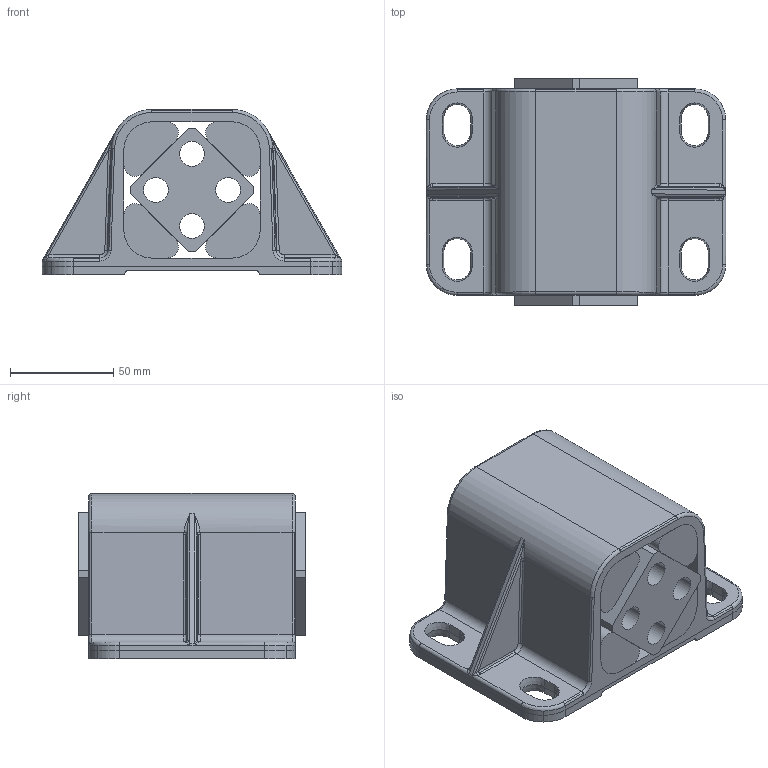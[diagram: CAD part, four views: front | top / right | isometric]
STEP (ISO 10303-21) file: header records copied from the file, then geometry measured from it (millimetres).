
FILE_DESCRIPTION((''),'2;1');
FILE_NAME('\\rostaofc\data\uw\save\daten_f\Normprogramm 3D\Gummifederelemente\DW-A45x100_01101015.stp','2004-09-28T08:00:05',('uw'),(''),'Autodesk Inventor 8','Autodesk Inventor 8','');
FILE_SCHEMA(('AUTOMOTIVE_DESIGN { 1 0 10303 214 1 1 1 1 }'));
Length unit declared in the file: millimetre
Products named in the file (4): ROSTA-Gummifederelement DW-A45x100; Gehäuse zu DW45x100; SK2910-001; SK2910-002
Assembly tree (6 placements, depth 2):
  ROSTA-Gummifederelement DW-A45x100
    Gehäuse zu DW45x100
    SK2910-001
    SK2910-002  x4
Bounding box: 145 x 110 x 80 mm (x, y, z)
Volume: 597849.4 mm3; surface area: 149734.5 mm2
Topology: 6 solids, 6 shells, 258 faces, 662 edges, 412 vertices
Faces by surface type: cylinder 105, plane 99, bspline 26, cone 16, torus 12
Entity records: 9234 total; most frequent: CARTESIAN_POINT 3351, DIRECTION 1228, ORIENTED_EDGE 1208, EDGE_CURVE 604, AXIS2_PLACEMENT_3D 446, VERTEX_POINT 376, VECTOR 336, LINE 336
